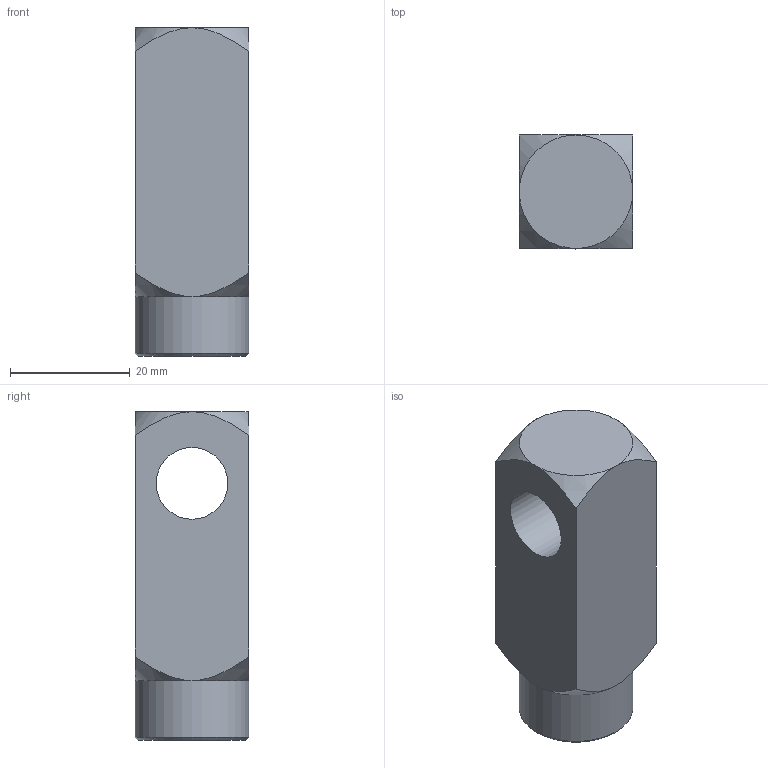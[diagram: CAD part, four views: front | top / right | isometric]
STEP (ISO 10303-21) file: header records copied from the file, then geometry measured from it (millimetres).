
FILE_DESCRIPTION(/* description */ ('Unknown'),/* implementation_level */ '2;1');
FILE_NAME(/* name */ 'WK40_WK50_I',/* time_stamp */ '2026-07-17T16:40:06+08:00',/* author */ ('Unknown'),/* organization */ ('Unknown'),/* preprocessor_version */ 'ST-DEVELOPER v16.7',/* originating_system */ 'DEX',/* authorisation */ $);
FILE_SCHEMA (('CONFIG_CONTROL_DESIGN'));
Length unit declared in the file: millimetre
Products named in the file (1): WK40_WK50_I
Bounding box: 19 x 19 x 55 mm (x, y, z)
Volume: 13516.8 mm3; surface area: 6063.9 mm2
Topology: 1 solids, 1 shells, 16 faces, 37 edges, 23 vertices
Faces by surface type: cone 7, plane 6, cylinder 3
Full cylindrical faces by diameter (mm): 12 x1, 12.5 x1, 19 x1
Entity records: 578 total; most frequent: CARTESIAN_POINT 136, DIRECTION 60, ORIENTED_EDGE 54, AXIS2_PLACEMENT_3D 28, EDGE_CURVE 27, FACE_BOUND 25, EDGE_LOOP 24, VERTEX_POINT 20
